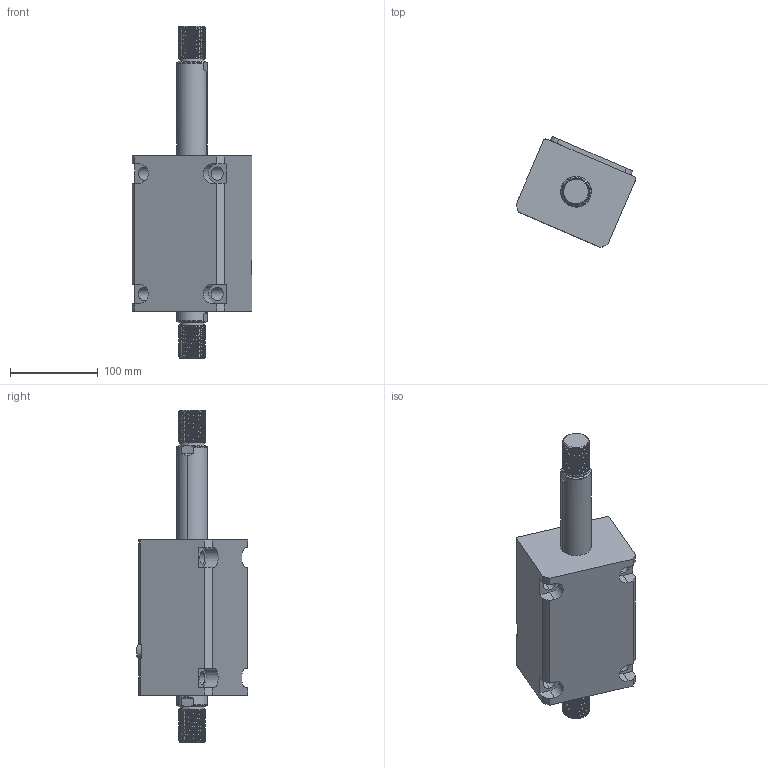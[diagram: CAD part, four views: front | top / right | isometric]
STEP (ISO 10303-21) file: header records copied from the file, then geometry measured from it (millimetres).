
FILE_DESCRIPTION (( 'STEP AP214' ), '1' );
FILE_NAME ('chtb-lwm63x95w_asm.STEP', '2018-05-22T02:02:20', ( 'Windows' ), ( 'Microsoft' ), 'SwSTEP 2.0', 'SolidWorks 2015', '' );
FILE_SCHEMA (( 'AUTOMOTIVE_DESIGN' ));
Length unit declared in the file: millimetre
Products named in the file (5): CHTB-LWM63X95NBT; CHTB-LA63PJ; CHTB-63QG; chtb-lwm63x95w_asm; CHTB-SW63X95WHSG
Assembly tree (4 placements, depth 2):
  chtb-lwm63x95w_asm
    CHTB-63QG
    CHTB-LA63PJ
    CHTB-LWM63X95NBT
    CHTB-SW63X95WHSG
Bounding box: 136.15 x 126.8 x 378 mm (x, y, z)
Volume: 1681639.3 mm3; surface area: 216892.1 mm2
Topology: 4 solids, 4 shells, 298 faces, 869 edges, 587 vertices
Faces by surface type: cylinder 203, plane 55, bspline 16, cone 12, torus 12
Entity records: 27660 total; most frequent: CARTESIAN_POINT 20506, ORIENTED_EDGE 1730, DIRECTION 1186, EDGE_CURVE 865, VERTEX_POINT 587, AXIS2_PLACEMENT_3D 440, EDGE_LOOP 326, LINE 306
